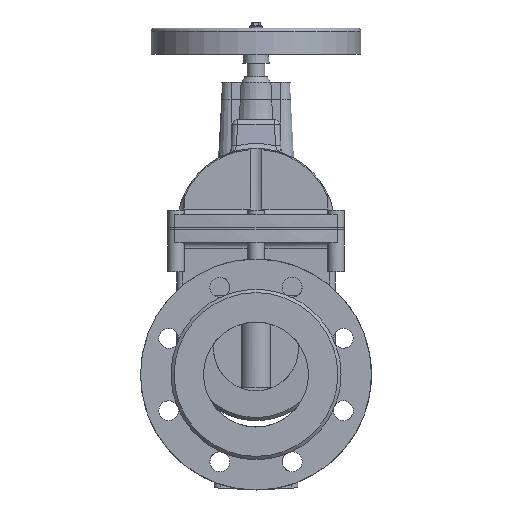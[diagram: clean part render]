
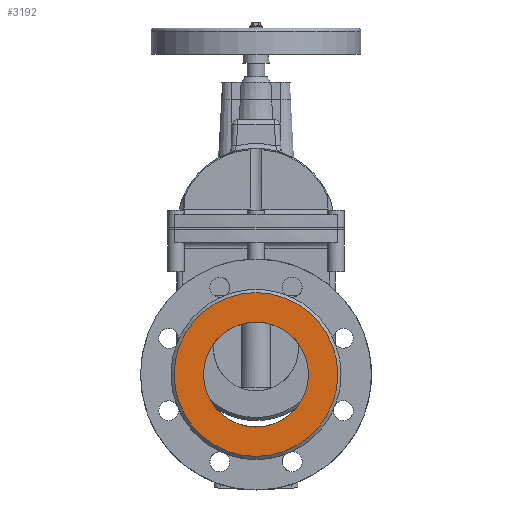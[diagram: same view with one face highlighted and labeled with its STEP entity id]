
A CAD part, left-side view. The second image highlights one B-rep face of the part: STEP entity #3192.
In plain terms, the highlighted planar face has unit normal (-1, 0, 0).
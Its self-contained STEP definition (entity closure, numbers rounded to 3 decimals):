
#3192=ADVANCED_FACE('',(#8274,#8276),#8278,.T.);
#8274=FACE_BOUND('',#8275,.T.);
#8275=EDGE_LOOP('',(#17513));
#8276=FACE_BOUND('',#8277,.T.);
#8277=EDGE_LOOP('',(#17514));
#8278=PLANE('',#8279);
#8279=AXIS2_PLACEMENT_3D('',#8280,#8281,#8282);
#8280=CARTESIAN_POINT('',(-95.,0.,0.));
#8281=DIRECTION('',(-1.,0.,0.));
#8282=DIRECTION('',(0.,-1.,0.));
#17513=ORIENTED_EDGE('',*,*,#20289,.T.);
#17514=ORIENTED_EDGE('',*,*,#20291,.T.);
#20289=EDGE_CURVE('',#23048,#23048,#23049,.T.);
#20291=EDGE_CURVE('',#23052,#23052,#23053,.F.);
#23048=VERTEX_POINT('',#32647);
#23049=CIRCLE('',#32648,78.);
#23052=VERTEX_POINT('',#32657);
#23053=CIRCLE('',#32658,50.);
#32647=CARTESIAN_POINT('',(-95.,-78.,0.));
#32648=AXIS2_PLACEMENT_3D('',#32649,#32650,#32651);
#32649=CARTESIAN_POINT('',(-95.,0.,0.));
#32650=DIRECTION('',(-1.,0.,0.));
#32651=DIRECTION('',(0.,-1.,0.));
#32657=CARTESIAN_POINT('',(-95.,-50.,0.));
#32658=AXIS2_PLACEMENT_3D('',#32659,#32660,#32661);
#32659=CARTESIAN_POINT('',(-95.,0.,0.));
#32660=DIRECTION('',(-1.,0.,0.));
#32661=DIRECTION('',(0.,-1.,0.));
